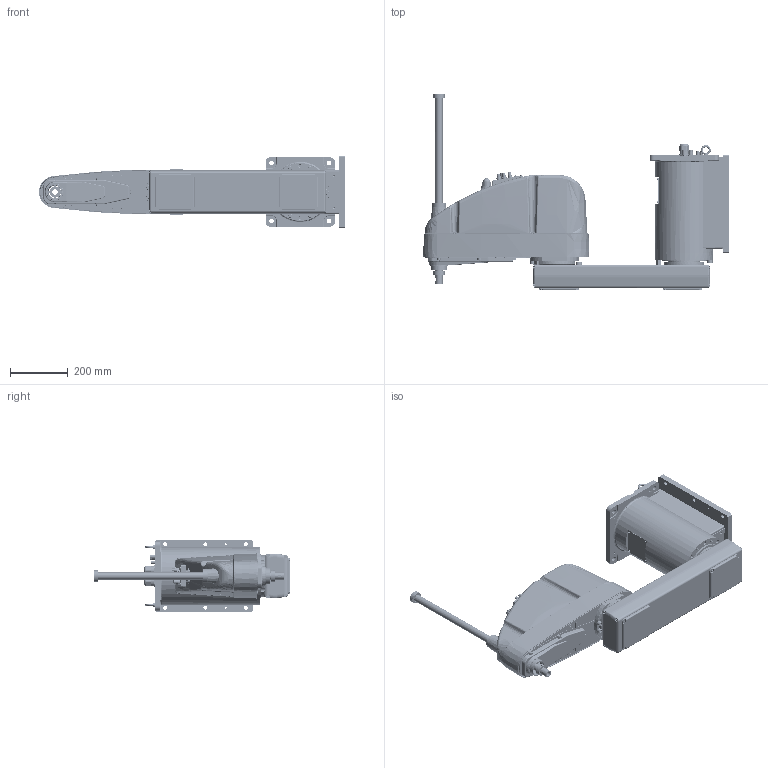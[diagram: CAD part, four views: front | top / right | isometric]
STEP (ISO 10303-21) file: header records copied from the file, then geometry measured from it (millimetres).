
FILE_DESCRIPTION((''),'2;1');
FILE_NAME('C_GL854SW_EYE_ASM','2008-01-30T',('0179539'),(''),'PRO/ENGINEER BY PARAMETRIC TECHNOLOGY CORPORATION, 2004090','PRO/ENGINEER BY PARAMETRIC TECHNOLOGY CORPORATION, 2004090','');
FILE_SCHEMA(('CONFIG_CONTROL_DESIGN'));
Length unit declared in the file: millimetre
Products named in the file (5): BASE3_L_EYE; ARM2_85; BODY_L; GSZ_4; C_GL854SW_EYE_ASM
Assembly tree (4 placements, depth 2):
  C_GL854SW_EYE_ASM
    BASE3_L_EYE
    ARM2_85
    BODY_L
    GSZ_4
Bounding box: 1060.34 x 681.5 x 250 mm (x, y, z)
Volume: 10061980.4 mm3; surface area: 3146706.7 mm2
Topology: 7 solids, 7 shells, 4810 faces, 12061 edges, 7671 vertices
Faces by surface type: plane 2224, cylinder 1599, cone 462, bspline 314, torus 160, extrusion 49, sphere 2
Entity records: 173703 total; most frequent: CARTESIAN_POINT 58420, ORIENTED_EDGE 23934, DIRECTION 23809, EDGE_CURVE 11967, AXIS2_PLACEMENT_3D 8590, VERTEX_POINT 7671, VECTOR 6629, LINE 6580
